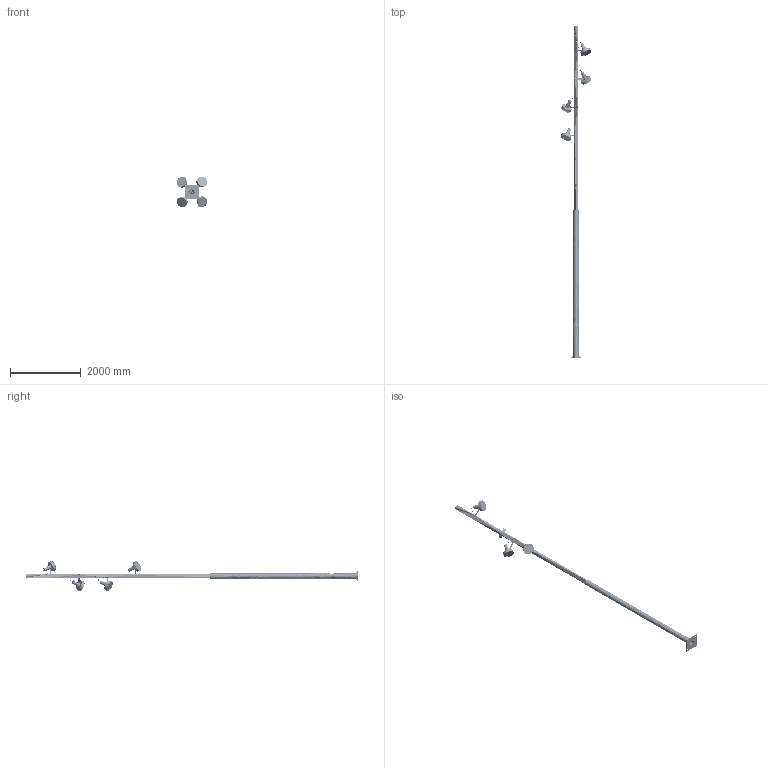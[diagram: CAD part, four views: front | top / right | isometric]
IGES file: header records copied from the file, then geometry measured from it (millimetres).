
Start section: SolidWorks IGES file using analytic representation for surfaces
Global section: file name: C:\Users\jordi.munoz\Desktop\ARNE\IGES WEB\Columna Arne 9.4 2secciones 4alturas.IGS; native system: SolidWorks 2013; preprocessor: SolidWorks 2013; author: jordi.munoz; date: 150325.152349; units: millimetre
Bounding box: 875.81 x 9400 x 875.81 mm (x, y, z)
Volume: 19842931.3 mm3; surface area: 11513574.6 mm2
Topology: 169 solids, 169 shells, 12163 faces, 29397 edges, 17236 vertices
Faces by surface type: revolution 5142, bspline 4200, plane 2821
